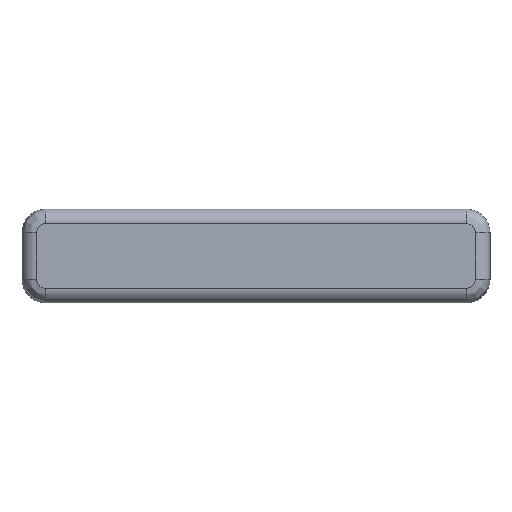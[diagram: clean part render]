
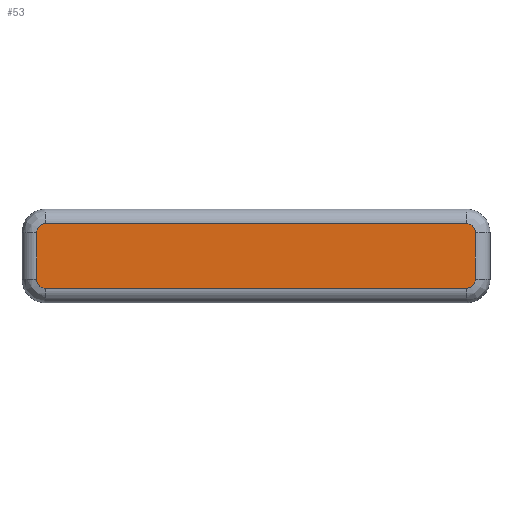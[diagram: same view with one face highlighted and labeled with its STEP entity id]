
A CAD part, top view. The second image highlights one B-rep face of the part: STEP entity #53.
In plain terms, the highlighted planar face has unit normal (0, 0, 1).
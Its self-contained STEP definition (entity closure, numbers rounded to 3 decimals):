
#1 = EDGE_CURVE ( 'NONE', #334, #355, #533, .T. ) ;
#30 = CARTESIAN_POINT ( 'NONE',  ( 77.5, 3.121, 4. ) ) ;
#31 = CARTESIAN_POINT ( 'NONE',  ( 4., 2.5, 4. ) ) ;
#53 = ADVANCED_FACE ( 'NONE', ( #323 ), #731, .T. ) ;
#59 = CARTESIAN_POINT ( 'NONE',  ( 2.5, 12.879, 4. ) ) ;
#93 = VERTEX_POINT ( 'NONE', #651 ) ;
#117 = CARTESIAN_POINT ( 'NONE',  ( 2.5, 12., 4. ) ) ;
#169 = VECTOR ( 'NONE', #342, 1000. ) ;
#172 = LINE ( 'NONE', #599, #169 ) ;
#178 = ORIENTED_EDGE ( 'NONE', *, *, #247, .F. ) ;
#179 = EDGE_CURVE ( 'NONE', #220, #548, #813, .T. ) ;
#189 = CARTESIAN_POINT ( 'NONE',  ( 76., 13.5, 4. ) ) ;
#193 = ORIENTED_EDGE ( 'NONE', *, *, #179, .F. ) ;
#200 = CARTESIAN_POINT ( 'NONE',  ( 77.5, 12., 4. ) ) ;
#214 = EDGE_CURVE ( 'NONE', #1033, #220, #898, .T. ) ;
#216 = CARTESIAN_POINT ( 'NONE',  ( 2.5, 4., 4. ) ) ;
#220 = VERTEX_POINT ( 'NONE', #817 ) ;
#224 = ORIENTED_EDGE ( 'NONE', *, *, #759, .F. ) ;
#232 = DIRECTION ( 'NONE',  ( 0., 1., 0. ) ) ;
#237 = EDGE_CURVE ( 'NONE', #93, #1033, #310, .T. ) ;
#247 = EDGE_CURVE ( 'NONE', #720, #93, #335, .T. ) ;
#249 = DIRECTION ( 'NONE',  ( 1., 0., 0. ) ) ;
#255 = CARTESIAN_POINT ( 'NONE',  ( 77.5, 12.879, 4. ) ) ;
#267 = CARTESIAN_POINT ( 'NONE',  ( 4., 2.5, 4. ) ) ;
#308 = ORIENTED_EDGE ( 'NONE', *, *, #779, .F. ) ;
#310 =( BOUNDED_CURVE ( )  B_SPLINE_CURVE ( 3, ( #189, #409, #255, #200 ),
 .UNSPECIFIED., .F., .T. ) 
 B_SPLINE_CURVE_WITH_KNOTS ( ( 4, 4 ),
 ( 0., 1. ),
 .UNSPECIFIED. ) 
 CURVE ( )  GEOMETRIC_REPRESENTATION_ITEM ( )  RATIONAL_B_SPLINE_CURVE ( ( 1., 0.805, 0.805, 1. ) ) 
 REPRESENTATION_ITEM ( '' )  );
#323 = FACE_OUTER_BOUND ( 'NONE', #329, .T. ) ;
#329 = EDGE_LOOP ( 'NONE', ( #224, #308, #193, #734, #459, #178, #389, #643 ) ) ;
#330 = DIRECTION ( 'NONE',  ( 1., 0., 0. ) ) ;
#334 = VERTEX_POINT ( 'NONE', #421 ) ;
#335 = LINE ( 'NONE', #661, #612 ) ;
#342 = DIRECTION ( 'NONE',  ( -1., 0., 0. ) ) ;
#355 = VERTEX_POINT ( 'NONE', #117 ) ;
#389 = ORIENTED_EDGE ( 'NONE', *, *, #546, .F. ) ;
#409 = CARTESIAN_POINT ( 'NONE',  ( 76.879, 13.5, 4. ) ) ;
#421 = CARTESIAN_POINT ( 'NONE',  ( 2.5, 4., 4. ) ) ;
#432 = CARTESIAN_POINT ( 'NONE',  ( 77.5, 4., 4. ) ) ;
#459 = ORIENTED_EDGE ( 'NONE', *, *, #237, .F. ) ;
#522 = CARTESIAN_POINT ( 'NONE',  ( 4., 13.5, 4. ) ) ;
#526 = CARTESIAN_POINT ( 'NONE',  ( 4., 13.5, 4. ) ) ;
#533 = LINE ( 'NONE', #216, #856 ) ;
#535 = CARTESIAN_POINT ( 'NONE',  ( 3.121, 2.5, 4. ) ) ;
#543 = CARTESIAN_POINT ( 'NONE',  ( 2.5, 12., 4. ) ) ;
#546 = EDGE_CURVE ( 'NONE', #355, #720, #555, .T. ) ;
#548 = VERTEX_POINT ( 'NONE', #603 ) ;
#555 =( BOUNDED_CURVE ( )  B_SPLINE_CURVE ( 3, ( #543, #59, #1022, #522 ),
 .UNSPECIFIED., .F., .F. ) 
 B_SPLINE_CURVE_WITH_KNOTS ( ( 4, 4 ),
 ( 0., 1. ),
 .UNSPECIFIED. ) 
 CURVE ( )  GEOMETRIC_REPRESENTATION_ITEM ( )  RATIONAL_B_SPLINE_CURVE ( ( 1., 0.805, 0.805, 1. ) ) 
 REPRESENTATION_ITEM ( '' )  );
#587 = CARTESIAN_POINT ( 'NONE',  ( 76., 2.5, 4. ) ) ;
#599 = CARTESIAN_POINT ( 'NONE',  ( 76., 2.5, 4. ) ) ;
#603 = CARTESIAN_POINT ( 'NONE',  ( 76., 2.5, 4. ) ) ;
#612 = VECTOR ( 'NONE', #330, 1000. ) ;
#643 = ORIENTED_EDGE ( 'NONE', *, *, #1, .F. ) ;
#649 = DIRECTION ( 'NONE',  ( 0., 0., 1. ) ) ;
#651 = CARTESIAN_POINT ( 'NONE',  ( 76., 13.5, 4. ) ) ;
#656 = DIRECTION ( 'NONE',  ( 0., -1., 0. ) ) ;
#661 = CARTESIAN_POINT ( 'NONE',  ( 4., 13.5, 4. ) ) ;
#662 =( BOUNDED_CURVE ( )  B_SPLINE_CURVE ( 3, ( #267, #535, #848, #914 ),
 .UNSPECIFIED., .F., .T. ) 
 B_SPLINE_CURVE_WITH_KNOTS ( ( 4, 4 ),
 ( 0., 1. ),
 .UNSPECIFIED. ) 
 CURVE ( )  GEOMETRIC_REPRESENTATION_ITEM ( )  RATIONAL_B_SPLINE_CURVE ( ( 1., 0.805, 0.805, 1. ) ) 
 REPRESENTATION_ITEM ( '' )  );
#720 = VERTEX_POINT ( 'NONE', #526 ) ;
#728 = AXIS2_PLACEMENT_3D ( 'NONE', #883, #649, #249 ) ;
#731 = PLANE ( 'NONE',  #728 ) ;
#734 = ORIENTED_EDGE ( 'NONE', *, *, #214, .F. ) ;
#759 = EDGE_CURVE ( 'NONE', #847, #334, #662, .T. ) ;
#779 = EDGE_CURVE ( 'NONE', #548, #847, #172, .T. ) ;
#813 =( BOUNDED_CURVE ( )  B_SPLINE_CURVE ( 3, ( #432, #30, #907, #587 ),
 .UNSPECIFIED., .F., .T. ) 
 B_SPLINE_CURVE_WITH_KNOTS ( ( 4, 4 ),
 ( 0., 1. ),
 .UNSPECIFIED. ) 
 CURVE ( )  GEOMETRIC_REPRESENTATION_ITEM ( )  RATIONAL_B_SPLINE_CURVE ( ( 1., 0.805, 0.805, 1. ) ) 
 REPRESENTATION_ITEM ( '' )  );
#817 = CARTESIAN_POINT ( 'NONE',  ( 77.5, 4., 4. ) ) ;
#847 = VERTEX_POINT ( 'NONE', #31 ) ;
#848 = CARTESIAN_POINT ( 'NONE',  ( 2.5, 3.121, 4. ) ) ;
#856 = VECTOR ( 'NONE', #232, 1000. ) ;
#883 = CARTESIAN_POINT ( 'NONE',  ( 4.75, 4., 4. ) ) ;
#898 = LINE ( 'NONE', #924, #904 ) ;
#904 = VECTOR ( 'NONE', #656, 1000. ) ;
#907 = CARTESIAN_POINT ( 'NONE',  ( 76.879, 2.5, 4. ) ) ;
#914 = CARTESIAN_POINT ( 'NONE',  ( 2.5, 4., 4. ) ) ;
#924 = CARTESIAN_POINT ( 'NONE',  ( 77.5, 12., 4. ) ) ;
#962 = CARTESIAN_POINT ( 'NONE',  ( 77.5, 12., 4. ) ) ;
#1022 = CARTESIAN_POINT ( 'NONE',  ( 3.121, 13.5, 4. ) ) ;
#1033 = VERTEX_POINT ( 'NONE', #962 ) ;
